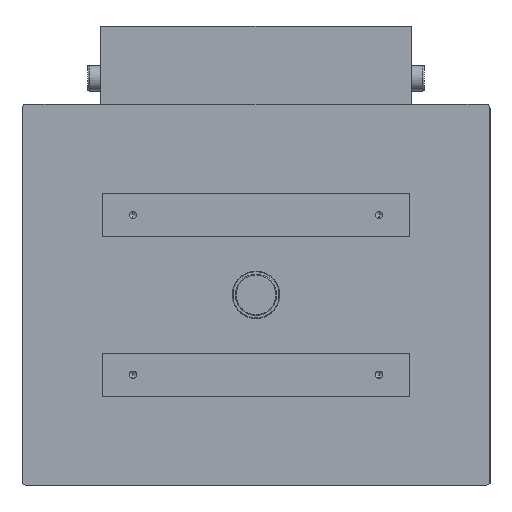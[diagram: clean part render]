
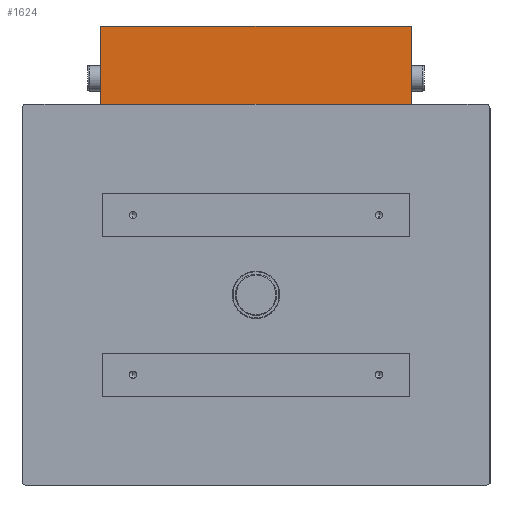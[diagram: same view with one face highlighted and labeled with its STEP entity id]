
A CAD part, front view. The second image highlights one B-rep face of the part: STEP entity #1624.
In plain terms, the highlighted planar face has unit normal (0, -1, 0).
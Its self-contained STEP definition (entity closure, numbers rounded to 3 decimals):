
#326 = ORIENTED_EDGE ( 'NONE', *, *, #6006, .T. ) ;
#1039 = CARTESIAN_POINT ( 'NONE',  ( 180., -30., 311. ) ) ;
#1040 = ORIENTED_EDGE ( 'NONE', *, *, #5450, .F. ) ;
#1550 = EDGE_CURVE ( 'NONE', #13223, #10245, #12417, .T. ) ;
#1624 = ADVANCED_FACE ( 'NONE', ( #3703 ), #16475, .F. ) ;
#1681 = VECTOR ( 'NONE', #10747, 1000. ) ;
#3142 = DIRECTION ( 'NONE',  ( -1., 0., 0. ) ) ;
#3209 = CARTESIAN_POINT ( 'NONE',  ( 180., -30., 221. ) ) ;
#3703 = FACE_OUTER_BOUND ( 'NONE', #16867, .T. ) ;
#3857 = CARTESIAN_POINT ( 'NONE',  ( -180., -30., 311. ) ) ;
#4485 = DIRECTION ( 'NONE',  ( 0., 0., -1. ) ) ;
#5362 = LINE ( 'NONE', #14785, #1681 ) ;
#5450 = EDGE_CURVE ( 'NONE', #14874, #10245, #16539, .T. ) ;
#6006 = EDGE_CURVE ( 'NONE', #17500, #13223, #14889, .T. ) ;
#9765 = VECTOR ( 'NONE', #3142, 1000. ) ;
#10245 = VERTEX_POINT ( 'NONE', #13571 ) ;
#10747 = DIRECTION ( 'NONE',  ( 0., 0., -1. ) ) ;
#11317 = VECTOR ( 'NONE', #12435, 1000. ) ;
#11722 = EDGE_CURVE ( 'NONE', #17500, #14874, #5362, .T. ) ;
#11805 = ORIENTED_EDGE ( 'NONE', *, *, #1550, .T. ) ;
#12172 = ORIENTED_EDGE ( 'NONE', *, *, #11722, .F. ) ;
#12417 = LINE ( 'NONE', #3857, #15530 ) ;
#12435 = DIRECTION ( 'NONE',  ( -1., 0., 0. ) ) ;
#12670 = CARTESIAN_POINT ( 'NONE',  ( 180., -30., 311. ) ) ;
#12914 = CARTESIAN_POINT ( 'NONE',  ( 180., -30., 221. ) ) ;
#13223 = VERTEX_POINT ( 'NONE', #13282 ) ;
#13282 = CARTESIAN_POINT ( 'NONE',  ( -180., -30., 311. ) ) ;
#13571 = CARTESIAN_POINT ( 'NONE',  ( -180., -30., 221. ) ) ;
#14785 = CARTESIAN_POINT ( 'NONE',  ( 180., -30., 311. ) ) ;
#14874 = VERTEX_POINT ( 'NONE', #12914 ) ;
#14889 = LINE ( 'NONE', #12670, #11317 ) ;
#15530 = VECTOR ( 'NONE', #4485, 1000. ) ;
#16409 = DIRECTION ( 'NONE',  ( 0., 0., 1. ) ) ;
#16448 = DIRECTION ( 'NONE',  ( 0., 1., 0. ) ) ;
#16475 = PLANE ( 'NONE',  #16874 ) ;
#16539 = LINE ( 'NONE', #3209, #9765 ) ;
#16867 = EDGE_LOOP ( 'NONE', ( #11805, #1040, #12172, #326 ) ) ;
#16874 = AXIS2_PLACEMENT_3D ( 'NONE', #1039, #16448, #16409 ) ;
#17500 = VERTEX_POINT ( 'NONE', #17701 ) ;
#17701 = CARTESIAN_POINT ( 'NONE',  ( 180., -30., 311. ) ) ;
